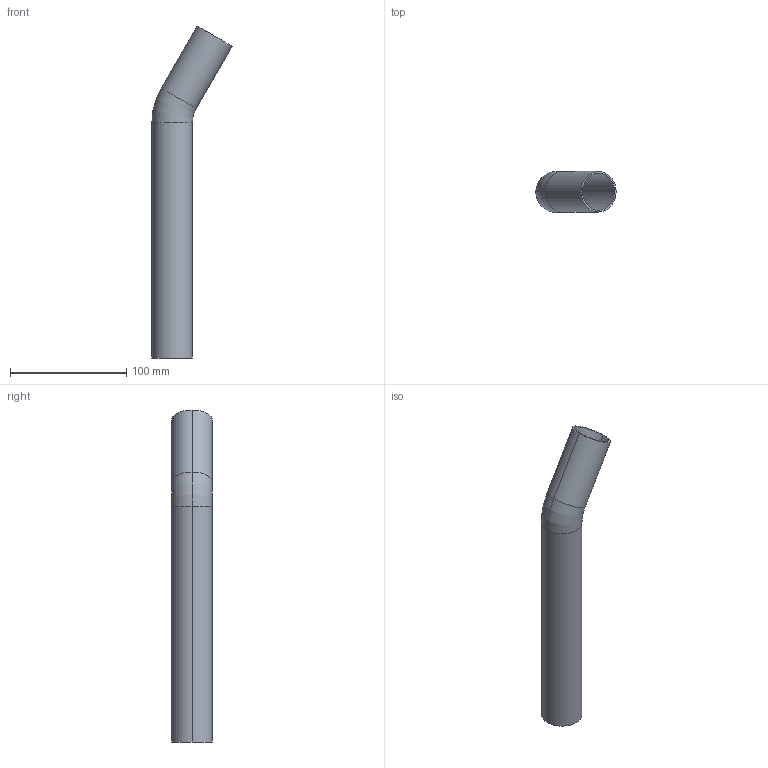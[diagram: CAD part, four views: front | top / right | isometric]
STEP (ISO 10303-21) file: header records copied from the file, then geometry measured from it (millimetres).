
FILE_DESCRIPTION(('OneSpaceDesigner STEP Export'),'2;1');
FILE_NAME('R2723 35x35.stp','2010-06-10T12:52:22',(''),(''),'OneSpace Designer STEP processor for AP214 (Solid Model)','OneSpace Modeling 15.00A 14-Mar-2007 (C) CoCreate Software GmbH','');
FILE_SCHEMA(('AUTOMOTIVE_DESIGN { 1 0 10303 214 1 1 1 1 }'));
Length unit declared in the file: millimetre
Products named in the file (2): R2723_35x35
Assembly tree (1 placements, depth 2):
  R2723_35x35
    R2723_35x35
Bounding box: 69.16 x 35 x 285.97 mm (x, y, z)
Volume: 45225.7 mm3; surface area: 60616.7 mm2
Topology: 1 solids, 1 shells, 14 faces, 29 edges, 17 vertices
Faces by surface type: cylinder 8, torus 4, plane 2
Entity records: 362 total; most frequent: ORIENTED_EDGE 58, DIRECTION 56, CARTESIAN_POINT 49, EDGE_CURVE 29, AXIS2_PLACEMENT_3D 24, VERTEX_POINT 17, EDGE_LOOP 16, CIRCLE 14
